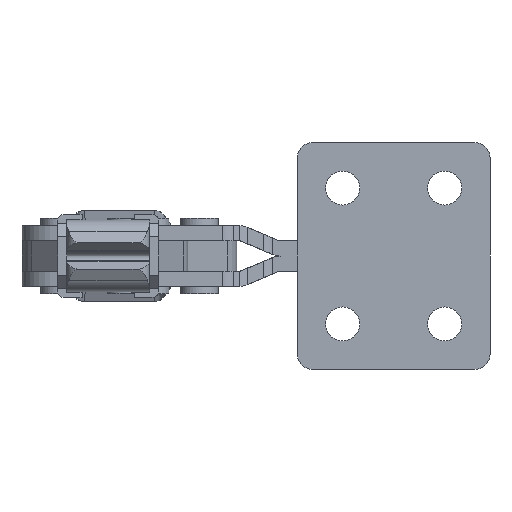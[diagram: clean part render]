
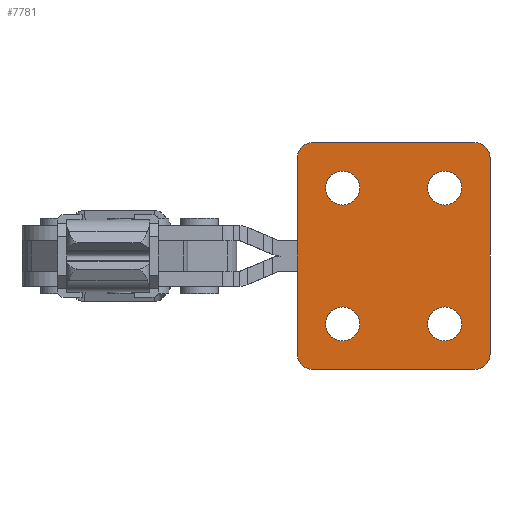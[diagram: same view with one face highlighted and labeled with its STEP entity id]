
A CAD part, left-side view. The second image highlights one B-rep face of the part: STEP entity #7781.
In plain terms, the highlighted planar face has unit normal (-1, 0, 0).
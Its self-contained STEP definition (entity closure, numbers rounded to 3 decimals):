
#97 = DIRECTION ( 'NONE',  ( 0., -1., 0. ) ) ;
#298 = DIRECTION ( 'NONE',  ( 1., 0., 0. ) ) ;
#301 = CIRCLE ( 'NONE', #1248, 2.25 ) ;
#375 = DIRECTION ( 'NONE',  ( 1., 0., 0. ) ) ;
#501 = EDGE_CURVE ( 'NONE', #4093, #7071, #2266, .T. ) ;
#507 = CARTESIAN_POINT ( 'NONE',  ( 0., 6., -11.25 ) ) ;
#532 = CIRCLE ( 'NONE', #6905, 2. ) ;
#699 = EDGE_LOOP ( 'NONE', ( #3870, #2990, #6573, #4105, #801, #7100, #3605, #979 ) ) ;
#801 = ORIENTED_EDGE ( 'NONE', *, *, #1626, .F. ) ;
#840 = CIRCLE ( 'NONE', #5815, 2. ) ;
#858 = AXIS2_PLACEMENT_3D ( 'NONE', #2853, #3309, #3436 ) ;
#869 = CARTESIAN_POINT ( 'NONE',  ( 0., 19.5, -9. ) ) ;
#979 = ORIENTED_EDGE ( 'NONE', *, *, #4558, .F. ) ;
#995 = VERTEX_POINT ( 'NONE', #6426 ) ;
#1019 = DIRECTION ( 'NONE',  ( -1., 0., 0. ) ) ;
#1027 = EDGE_CURVE ( 'NONE', #3346, #4093, #840, .T. ) ;
#1080 = VERTEX_POINT ( 'NONE', #7702 ) ;
#1248 = AXIS2_PLACEMENT_3D ( 'NONE', #5600, #2998, #4245 ) ;
#1441 = CARTESIAN_POINT ( 'NONE',  ( 0., 2., 13. ) ) ;
#1620 = VERTEX_POINT ( 'NONE', #2866 ) ;
#1626 = EDGE_CURVE ( 'NONE', #7071, #995, #6906, .T. ) ;
#1642 = CARTESIAN_POINT ( 'NONE',  ( 0., 23.5, 15. ) ) ;
#1675 = CARTESIAN_POINT ( 'NONE',  ( 0., 2., -15. ) ) ;
#1692 = PLANE ( 'NONE',  #6558 ) ;
#1705 = CARTESIAN_POINT ( 'NONE',  ( 0., 19.5, -11.25 ) ) ;
#1713 = EDGE_CURVE ( 'NONE', #1620, #1620, #4240, .T. ) ;
#1733 = FACE_BOUND ( 'NONE', #7554, .T. ) ;
#1849 = DIRECTION ( 'NONE',  ( 0., 0., -1. ) ) ;
#1922 = CIRCLE ( 'NONE', #858, 2.25 ) ;
#2037 = DIRECTION ( 'NONE',  ( 0., 0., -1. ) ) ;
#2266 = LINE ( 'NONE', #6107, #3086 ) ;
#2294 = DIRECTION ( 'NONE',  ( 0., 0., -1. ) ) ;
#2332 = CARTESIAN_POINT ( 'NONE',  ( 0., 19.5, 6.75 ) ) ;
#2423 = VERTEX_POINT ( 'NONE', #7299 ) ;
#2449 = DIRECTION ( 'NONE',  ( 0., 0., -1. ) ) ;
#2853 = CARTESIAN_POINT ( 'NONE',  ( 0., 6., -9. ) ) ;
#2866 = CARTESIAN_POINT ( 'NONE',  ( 0., 6., 6.75 ) ) ;
#2975 = DIRECTION ( 'NONE',  ( 1., 0., 0. ) ) ;
#2990 = ORIENTED_EDGE ( 'NONE', *, *, #5050, .F. ) ;
#2998 = DIRECTION ( 'NONE',  ( -1., 0., 0. ) ) ;
#3004 = CARTESIAN_POINT ( 'NONE',  ( 0., 0., 13. ) ) ;
#3086 = VECTOR ( 'NONE', #7341, 1000. ) ;
#3230 = EDGE_LOOP ( 'NONE', ( #6209 ) ) ;
#3309 = DIRECTION ( 'NONE',  ( -1., 0., 0. ) ) ;
#3346 = VERTEX_POINT ( 'NONE', #3563 ) ;
#3436 = DIRECTION ( 'NONE',  ( 0., 0., -1. ) ) ;
#3555 = CARTESIAN_POINT ( 'NONE',  ( 0., 23.5, -13. ) ) ;
#3563 = CARTESIAN_POINT ( 'NONE',  ( 0., 2., 15. ) ) ;
#3595 = DIRECTION ( 'NONE',  ( 1., 0., 0. ) ) ;
#3605 = ORIENTED_EDGE ( 'NONE', *, *, #1027, .F. ) ;
#3639 = EDGE_CURVE ( 'NONE', #2423, #8182, #4496, .T. ) ;
#3666 = LINE ( 'NONE', #1675, #6225 ) ;
#3710 = VECTOR ( 'NONE', #97, 1000. ) ;
#3870 = ORIENTED_EDGE ( 'NONE', *, *, #4382, .F. ) ;
#3996 = DIRECTION ( 'NONE',  ( 0., 0., 1. ) ) ;
#4081 = DIRECTION ( 'NONE',  ( 0., 0., -1. ) ) ;
#4093 = VERTEX_POINT ( 'NONE', #3004 ) ;
#4094 = AXIS2_PLACEMENT_3D ( 'NONE', #3555, #2975, #2449 ) ;
#4105 = ORIENTED_EDGE ( 'NONE', *, *, #4250, .F. ) ;
#4217 = CARTESIAN_POINT ( 'NONE',  ( 0., 2., 13. ) ) ;
#4227 = ORIENTED_EDGE ( 'NONE', *, *, #7630, .F. ) ;
#4240 = CIRCLE ( 'NONE', #5418, 2.25 ) ;
#4245 = DIRECTION ( 'NONE',  ( 0., 0., -1. ) ) ;
#4250 = EDGE_CURVE ( 'NONE', #995, #2423, #3666, .T. ) ;
#4260 = FACE_BOUND ( 'NONE', #3230, .T. ) ;
#4375 = AXIS2_PLACEMENT_3D ( 'NONE', #6663, #298, #4081 ) ;
#4382 = EDGE_CURVE ( 'NONE', #1080, #4876, #532, .T. ) ;
#4405 = CARTESIAN_POINT ( 'NONE',  ( 0., 0., -13. ) ) ;
#4439 = CIRCLE ( 'NONE', #5347, 2.25 ) ;
#4496 = CIRCLE ( 'NONE', #4094, 2. ) ;
#4558 = EDGE_CURVE ( 'NONE', #4876, #3346, #7202, .T. ) ;
#4876 = VERTEX_POINT ( 'NONE', #1642 ) ;
#4917 = DIRECTION ( 'NONE',  ( 0., 0., -1. ) ) ;
#4929 = VERTEX_POINT ( 'NONE', #507 ) ;
#5050 = EDGE_CURVE ( 'NONE', #8182, #1080, #7173, .T. ) ;
#5347 = AXIS2_PLACEMENT_3D ( 'NONE', #869, #5841, #5882 ) ;
#5389 = ORIENTED_EDGE ( 'NONE', *, *, #1713, .F. ) ;
#5418 = AXIS2_PLACEMENT_3D ( 'NONE', #7522, #1019, #1849 ) ;
#5516 = DIRECTION ( 'NONE',  ( 0., 1., 0. ) ) ;
#5600 = CARTESIAN_POINT ( 'NONE',  ( 0., 19.5, 9. ) ) ;
#5815 = AXIS2_PLACEMENT_3D ( 'NONE', #1441, #6349, #2037 ) ;
#5841 = DIRECTION ( 'NONE',  ( -1., 0., 0. ) ) ;
#5882 = DIRECTION ( 'NONE',  ( 0., 0., -1. ) ) ;
#6064 = ORIENTED_EDGE ( 'NONE', *, *, #7629, .F. ) ;
#6107 = CARTESIAN_POINT ( 'NONE',  ( 0., 0., 13. ) ) ;
#6209 = ORIENTED_EDGE ( 'NONE', *, *, #6392, .F. ) ;
#6225 = VECTOR ( 'NONE', #5516, 1000. ) ;
#6277 = EDGE_LOOP ( 'NONE', ( #5389 ) ) ;
#6349 = DIRECTION ( 'NONE',  ( 1., 0., 0. ) ) ;
#6392 = EDGE_CURVE ( 'NONE', #6453, #6453, #301, .T. ) ;
#6426 = CARTESIAN_POINT ( 'NONE',  ( 0., 2., -15. ) ) ;
#6453 = VERTEX_POINT ( 'NONE', #2332 ) ;
#6520 = CARTESIAN_POINT ( 'NONE',  ( 0., 2., 15. ) ) ;
#6558 = AXIS2_PLACEMENT_3D ( 'NONE', #4217, #3595, #4917 ) ;
#6573 = ORIENTED_EDGE ( 'NONE', *, *, #3639, .F. ) ;
#6663 = CARTESIAN_POINT ( 'NONE',  ( 0., 2., -13. ) ) ;
#6905 = AXIS2_PLACEMENT_3D ( 'NONE', #7337, #375, #2294 ) ;
#6906 = CIRCLE ( 'NONE', #4375, 2. ) ;
#7043 = CARTESIAN_POINT ( 'NONE',  ( 0., 25.5, -13. ) ) ;
#7071 = VERTEX_POINT ( 'NONE', #4405 ) ;
#7100 = ORIENTED_EDGE ( 'NONE', *, *, #501, .F. ) ;
#7173 = LINE ( 'NONE', #7258, #7661 ) ;
#7202 = LINE ( 'NONE', #6520, #3710 ) ;
#7258 = CARTESIAN_POINT ( 'NONE',  ( 0., 25.5, 13. ) ) ;
#7299 = CARTESIAN_POINT ( 'NONE',  ( 0., 23.5, -15. ) ) ;
#7337 = CARTESIAN_POINT ( 'NONE',  ( 0., 23.5, 13. ) ) ;
#7341 = DIRECTION ( 'NONE',  ( 0., 0., -1. ) ) ;
#7445 = FACE_BOUND ( 'NONE', #6277, .T. ) ;
#7469 = EDGE_LOOP ( 'NONE', ( #6064 ) ) ;
#7522 = CARTESIAN_POINT ( 'NONE',  ( 0., 6., 9. ) ) ;
#7537 = FACE_OUTER_BOUND ( 'NONE', #699, .T. ) ;
#7554 = EDGE_LOOP ( 'NONE', ( #4227 ) ) ;
#7629 = EDGE_CURVE ( 'NONE', #8141, #8141, #4439, .T. ) ;
#7630 = EDGE_CURVE ( 'NONE', #4929, #4929, #1922, .T. ) ;
#7661 = VECTOR ( 'NONE', #3996, 1000. ) ;
#7702 = CARTESIAN_POINT ( 'NONE',  ( 0., 25.5, 13. ) ) ;
#7781 = ADVANCED_FACE ( 'NONE', ( #7537, #4260, #8041, #1733, #7445 ), #1692, .F. ) ;
#8041 = FACE_BOUND ( 'NONE', #7469, .T. ) ;
#8141 = VERTEX_POINT ( 'NONE', #1705 ) ;
#8182 = VERTEX_POINT ( 'NONE', #7043 ) ;
